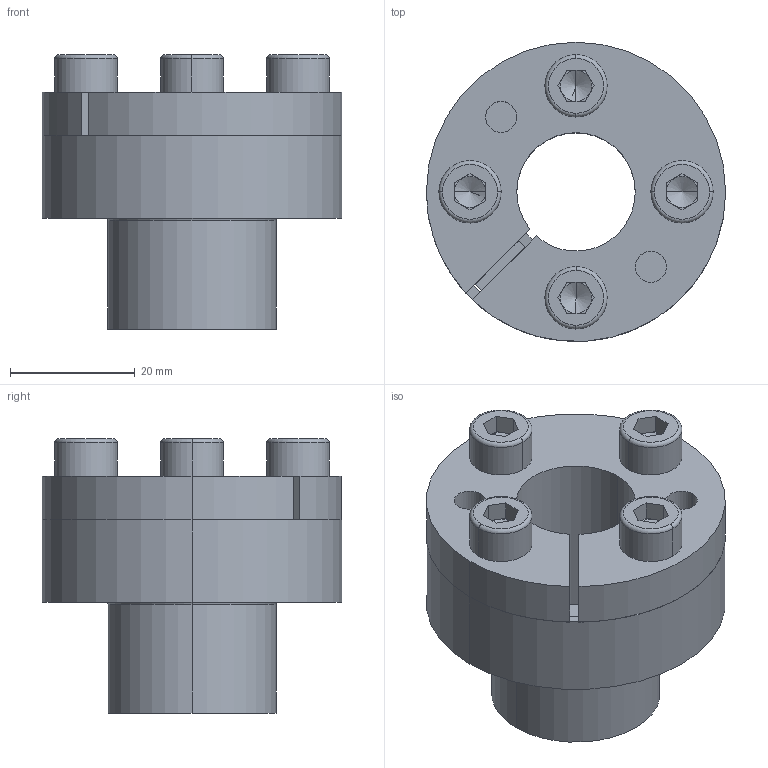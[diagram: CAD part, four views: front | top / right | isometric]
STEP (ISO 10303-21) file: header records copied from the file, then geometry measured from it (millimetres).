
FILE_DESCRIPTION (( 'STEP AP214' ), '1' );
FILE_NAME ('CONEX-B-19x27.step', '2013-04-04T12:41:28', ( 'Pc' ), ( '' ), 'SwSTEP 2.0', 'SolidWorks 2013', '' );
FILE_SCHEMA (( 'AUTOMOTIVE_DESIGN' ));
Length unit declared in the file: millimetre
Products named in the file (1): CONEX-B-19x27
Bounding box: 48 x 48 x 43.98 mm (x, y, z)
Volume: 30836.1 mm3; surface area: 22825.6 mm2
Topology: 7 solids, 7 shells, 174 faces, 414 edges, 250 vertices
Faces by surface type: plane 72, cylinder 52, torus 24, cone 22, bspline 4
Entity records: 7198 total; most frequent: CARTESIAN_POINT 1045, DIRECTION 942, ORIENTED_EDGE 812, EDGE_CURVE 406, AXIS2_PLACEMENT_3D 379, VERTEX_POINT 250, CIRCLE 208, EDGE_LOOP 200
